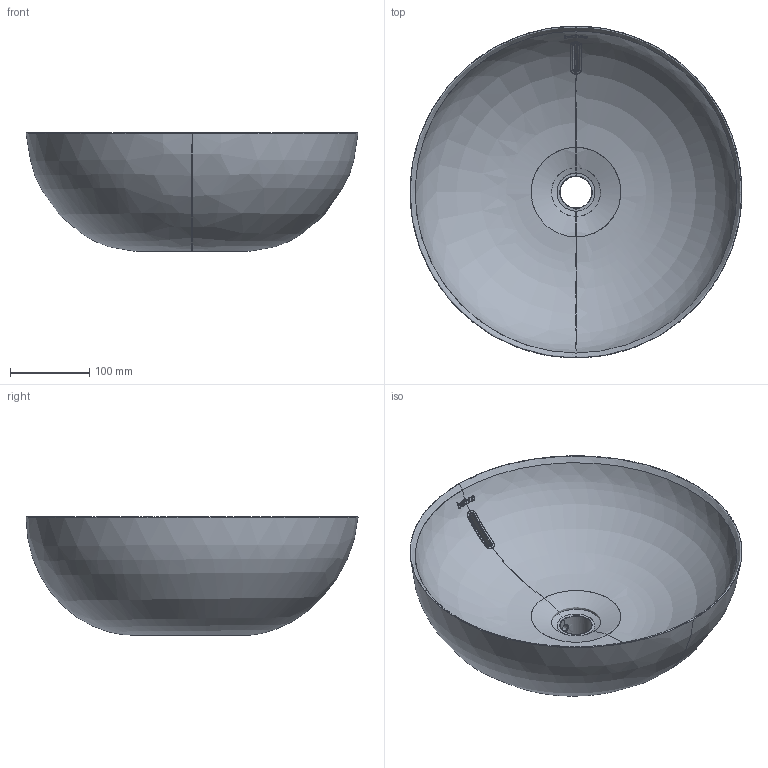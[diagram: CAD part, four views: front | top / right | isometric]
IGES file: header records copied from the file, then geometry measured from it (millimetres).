
Global section: file name: C:\Users\User\Desktop\Lavabos 3D\4128 Villareal\4128 Villareal.igs; native system: Rhinoceros ( Feb 26 2015 ); preprocessor: Trout Lake IGES 012 Feb 26 2015; date: 191022.045217; units: millimetre
Bounding box: 419.99 x 419.99 x 150 mm (x, y, z)
Surface area: 711631.6 mm2 (no closed solid volume)
Topology: 0 solids, 0 shells, 165 faces, 1401 edges, 1398 vertices
Faces by surface type: bspline 165
